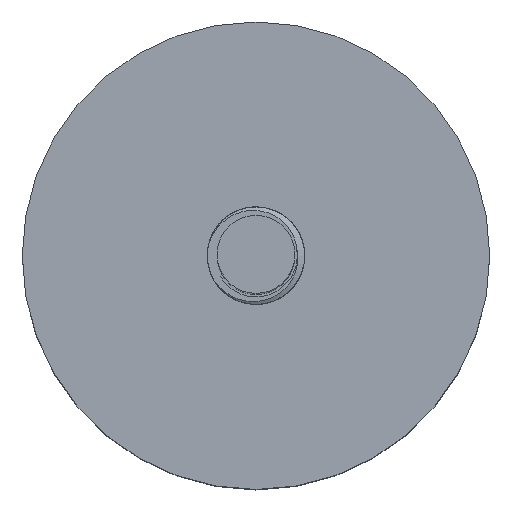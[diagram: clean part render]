
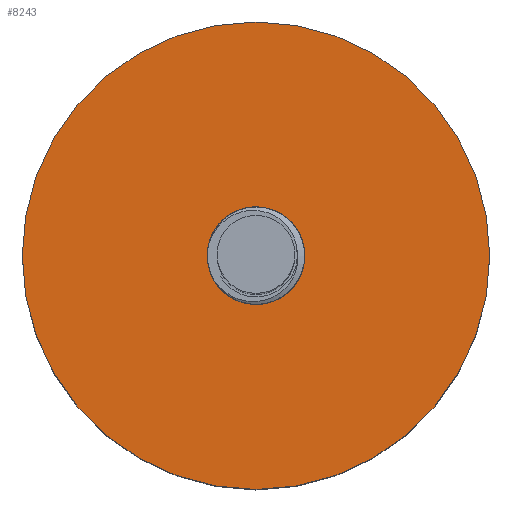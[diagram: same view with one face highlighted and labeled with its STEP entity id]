
A CAD part, top view. The second image highlights one B-rep face of the part: STEP entity #8243.
In plain terms, the highlighted planar face has unit normal (0, 0, 1).
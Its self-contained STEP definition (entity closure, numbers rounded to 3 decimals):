
#1523=CARTESIAN_POINT('',(0.,0.,14.5));
#1524=DIRECTION('',(0.,0.,1.));
#1525=DIRECTION('',(1.,0.,0.));
#1526=AXIS2_PLACEMENT_3D('',#1523,#1524,#1525);
#1528=CARTESIAN_POINT('',(0.,0.,14.5));
#1529=DIRECTION('',(0.,0.,1.));
#1530=DIRECTION('',(-1.,0.,0.));
#1531=AXIS2_PLACEMENT_3D('',#1528,#1529,#1530);
#1533=CARTESIAN_POINT('',(0.,0.,14.5));
#1534=DIRECTION('',(0.,0.,1.));
#1535=DIRECTION('',(1.,0.,0.));
#1536=AXIS2_PLACEMENT_3D('',#1533,#1534,#1535);
#1538=CARTESIAN_POINT('',(0.,0.,14.5));
#1539=DIRECTION('',(0.,0.,1.));
#1540=DIRECTION('',(-1.,0.,0.));
#1541=AXIS2_PLACEMENT_3D('',#1538,#1539,#1540);
#5804=CARTESIAN_POINT('',(24.,0.,14.5));
#5805=CARTESIAN_POINT('',(-24.,0.,14.5));
#5806=VERTEX_POINT('',#5804);
#5807=VERTEX_POINT('',#5805);
#5812=CARTESIAN_POINT('',(5.,0.,14.5));
#5813=CARTESIAN_POINT('',(-5.,0.,14.5));
#5814=VERTEX_POINT('',#5812);
#5815=VERTEX_POINT('',#5813);
#8228=CARTESIAN_POINT('',(0.,0.,14.5));
#8229=DIRECTION('',(0.,0.,1.));
#8230=DIRECTION('',(1.,0.,0.));
#8231=AXIS2_PLACEMENT_3D('',#8228,#8229,#8230);
#8232=PLANE('',#8231);
#8233=ORIENTED_EDGE('',*,*,#8208,.F.);
#8234=ORIENTED_EDGE('',*,*,#8222,.F.);
#8235=EDGE_LOOP('',(#8233,#8234));
#8236=FACE_OUTER_BOUND('',#8235,.F.);
#8238=ORIENTED_EDGE('',*,*,#8237,.T.);
#8240=ORIENTED_EDGE('',*,*,#8239,.T.);
#8241=EDGE_LOOP('',(#8238,#8240));
#8242=FACE_BOUND('',#8241,.F.);
#8243=ADVANCED_FACE('',(#8236,#8242),#8232,.T.);
#1527=CIRCLE('',#1526,24.);
#1532=CIRCLE('',#1531,24.);
#1537=CIRCLE('',#1536,5.);
#1542=CIRCLE('',#1541,5.);
#8208=EDGE_CURVE('',#5806,#5807,#1527,.T.);
#8222=EDGE_CURVE('',#5807,#5806,#1532,.T.);
#8237=EDGE_CURVE('',#5814,#5815,#1537,.T.);
#8239=EDGE_CURVE('',#5815,#5814,#1542,.T.);
